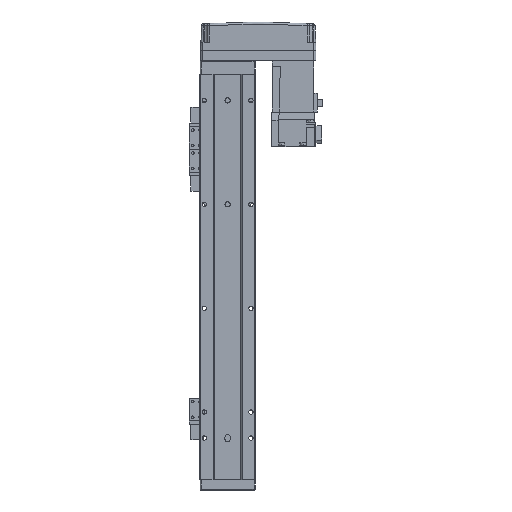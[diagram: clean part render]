
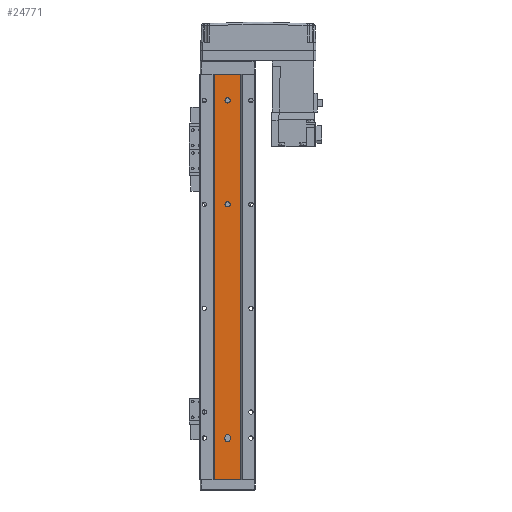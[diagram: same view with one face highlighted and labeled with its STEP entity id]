
A CAD part, front view. The second image highlights one B-rep face of the part: STEP entity #24771.
In plain terms, the highlighted planar face has unit normal (0, -1, 0).
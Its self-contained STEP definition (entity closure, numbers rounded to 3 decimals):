
#93 = CIRCLE ( 'NONE', #7317, 2.5 ) ;
#298 = ORIENTED_EDGE ( 'NONE', *, *, #24529, .F. ) ;
#1017 = CARTESIAN_POINT ( 'NONE',  ( 12.293, 1.5, 0. ) ) ;
#2043 = CARTESIAN_POINT ( 'NONE',  ( -12.293, 1.5, -390. ) ) ;
#3021 = EDGE_CURVE ( 'NONE', #18942, #34342, #25345, .T. ) ;
#3310 = EDGE_CURVE ( 'NONE', #30678, #3513, #25757, .T. ) ;
#3513 = VERTEX_POINT ( 'NONE', #35102 ) ;
#3616 = EDGE_LOOP ( 'NONE', ( #6352, #5404, #10941, #28826 ) ) ;
#3657 = AXIS2_PLACEMENT_3D ( 'NONE', #3936, #29823, #29332 ) ;
#3936 = CARTESIAN_POINT ( 'NONE',  ( 0., 1.5, -125. ) ) ;
#4661 = VERTEX_POINT ( 'NONE', #30310 ) ;
#5088 = VERTEX_POINT ( 'NONE', #17928 ) ;
#5352 = CARTESIAN_POINT ( 'NONE',  ( 12.293, 1.5, -390. ) ) ;
#5404 = ORIENTED_EDGE ( 'NONE', *, *, #3310, .F. ) ;
#5793 = DIRECTION ( 'NONE',  ( 1., 0., 0. ) ) ;
#5943 = VERTEX_POINT ( 'NONE', #30723 ) ;
#6166 = AXIS2_PLACEMENT_3D ( 'NONE', #25485, #31239, #5793 ) ;
#6352 = ORIENTED_EDGE ( 'NONE', *, *, #19448, .F. ) ;
#6417 = DIRECTION ( 'NONE',  ( 1., 0., 0. ) ) ;
#7121 = DIRECTION ( 'NONE',  ( 1., 0., 0. ) ) ;
#7317 = AXIS2_PLACEMENT_3D ( 'NONE', #34615, #12275, #6417 ) ;
#7646 = AXIS2_PLACEMENT_3D ( 'NONE', #20017, #17424, #17308 ) ;
#8012 = CARTESIAN_POINT ( 'NONE',  ( 2.5, 1.5, -25. ) ) ;
#8373 = ORIENTED_EDGE ( 'NONE', *, *, #3021, .F. ) ;
#8434 = CARTESIAN_POINT ( 'NONE',  ( 12.293, 1.5, -390. ) ) ;
#8997 = FACE_BOUND ( 'NONE', #13993, .T. ) ;
#9843 = EDGE_CURVE ( 'NONE', #5088, #29751, #22388, .T. ) ;
#10090 = LINE ( 'NONE', #1017, #18578 ) ;
#10736 = PLANE ( 'NONE',  #13218 ) ;
#10857 = ORIENTED_EDGE ( 'NONE', *, *, #17217, .T. ) ;
#10941 = ORIENTED_EDGE ( 'NONE', *, *, #21949, .F. ) ;
#11409 = ORIENTED_EDGE ( 'NONE', *, *, #35911, .T. ) ;
#11439 = CARTESIAN_POINT ( 'NONE',  ( -2.5, 1.5, -25. ) ) ;
#12275 = DIRECTION ( 'NONE',  ( 0., -1., 0. ) ) ;
#12551 = CARTESIAN_POINT ( 'NONE',  ( -2.5, 1.5, -349. ) ) ;
#12807 = VECTOR ( 'NONE', #22526, 1000. ) ;
#13218 = AXIS2_PLACEMENT_3D ( 'NONE', #5352, #27695, #33680 ) ;
#13729 = DIRECTION ( 'NONE',  ( 0., -1., 0. ) ) ;
#13993 = EDGE_LOOP ( 'NONE', ( #8373, #35473 ) ) ;
#15363 = CARTESIAN_POINT ( 'NONE',  ( 0., 1.5, -125. ) ) ;
#15707 = DIRECTION ( 'NONE',  ( 0., -1., 0. ) ) ;
#15746 = CIRCLE ( 'NONE', #6166, 2.5 ) ;
#16849 = DIRECTION ( 'NONE',  ( 0., 0., 1. ) ) ;
#16966 = VERTEX_POINT ( 'NONE', #26096 ) ;
#17217 = EDGE_CURVE ( 'NONE', #5943, #19969, #17772, .T. ) ;
#17308 = DIRECTION ( 'NONE',  ( 1., 0., 0. ) ) ;
#17424 = DIRECTION ( 'NONE',  ( 0., -1., 0. ) ) ;
#17448 = VERTEX_POINT ( 'NONE', #31535 ) ;
#17623 = EDGE_LOOP ( 'NONE', ( #32653, #24138, #10857, #11409 ) ) ;
#17772 = LINE ( 'NONE', #35789, #28046 ) ;
#17826 = LINE ( 'NONE', #25591, #23632 ) ;
#17928 = CARTESIAN_POINT ( 'NONE',  ( -2.5, 1.5, -125. ) ) ;
#17948 = LINE ( 'NONE', #2043, #21030 ) ;
#18191 = EDGE_CURVE ( 'NONE', #16966, #27463, #10090, .T. ) ;
#18322 = DIRECTION ( 'NONE',  ( 1., 0., 0. ) ) ;
#18578 = VECTOR ( 'NONE', #35289, 1000. ) ;
#18777 = FACE_BOUND ( 'NONE', #19732, .T. ) ;
#18942 = VERTEX_POINT ( 'NONE', #8012 ) ;
#19037 = CARTESIAN_POINT ( 'NONE',  ( 12.293, 1.5, -390. ) ) ;
#19240 = FACE_OUTER_BOUND ( 'NONE', #17623, .T. ) ;
#19448 = EDGE_CURVE ( 'NONE', #3513, #17448, #34438, .T. ) ;
#19732 = EDGE_LOOP ( 'NONE', ( #298, #26578 ) ) ;
#19738 = CARTESIAN_POINT ( 'NONE',  ( -2.5, 1.5, -390. ) ) ;
#19969 = VERTEX_POINT ( 'NONE', #19037 ) ;
#20017 = CARTESIAN_POINT ( 'NONE',  ( 0., 1.5, -25. ) ) ;
#21030 = VECTOR ( 'NONE', #16849, 1000. ) ;
#21949 = EDGE_CURVE ( 'NONE', #4661, #30678, #15746, .T. ) ;
#22388 = CIRCLE ( 'NONE', #35238, 2.5 ) ;
#22413 = EDGE_CURVE ( 'NONE', #5943, #16966, #17948, .T. ) ;
#22526 = DIRECTION ( 'NONE',  ( 0., 0., -1. ) ) ;
#22614 = DIRECTION ( 'NONE',  ( 0., 0., 1. ) ) ;
#23632 = VECTOR ( 'NONE', #22614, 1000. ) ;
#24138 = ORIENTED_EDGE ( 'NONE', *, *, #22413, .F. ) ;
#24529 = EDGE_CURVE ( 'NONE', #29751, #5088, #24592, .T. ) ;
#24592 = CIRCLE ( 'NONE', #3657, 2.5 ) ;
#24771 = ADVANCED_FACE ( 'NONE', ( #28627, #18777, #8997, #19240 ), #10736, .T. ) ;
#25345 = CIRCLE ( 'NONE', #7646, 2.5 ) ;
#25398 = DIRECTION ( 'NONE',  ( 1., 0., 0. ) ) ;
#25485 = CARTESIAN_POINT ( 'NONE',  ( 0., 1.5, -349. ) ) ;
#25591 = CARTESIAN_POINT ( 'NONE',  ( 2.5, 1.5, -390. ) ) ;
#25757 = LINE ( 'NONE', #19738, #12807 ) ;
#26096 = CARTESIAN_POINT ( 'NONE',  ( -12.293, 1.5, 0. ) ) ;
#26578 = ORIENTED_EDGE ( 'NONE', *, *, #9843, .F. ) ;
#27210 = CARTESIAN_POINT ( 'NONE',  ( 2.5, 1.5, -125. ) ) ;
#27463 = VERTEX_POINT ( 'NONE', #30128 ) ;
#27695 = DIRECTION ( 'NONE',  ( 0., -1., 0. ) ) ;
#28046 = VECTOR ( 'NONE', #7121, 1000. ) ;
#28233 = VECTOR ( 'NONE', #28389, 1000. ) ;
#28302 = CARTESIAN_POINT ( 'NONE',  ( 0., 1.5, -351. ) ) ;
#28318 = EDGE_CURVE ( 'NONE', #17448, #4661, #17826, .T. ) ;
#28389 = DIRECTION ( 'NONE',  ( 0., 0., 1. ) ) ;
#28627 = FACE_BOUND ( 'NONE', #3616, .T. ) ;
#28826 = ORIENTED_EDGE ( 'NONE', *, *, #28318, .F. ) ;
#29332 = DIRECTION ( 'NONE',  ( 1., 0., 0. ) ) ;
#29751 = VERTEX_POINT ( 'NONE', #27210 ) ;
#29823 = DIRECTION ( 'NONE',  ( 0., -1., 0. ) ) ;
#30128 = CARTESIAN_POINT ( 'NONE',  ( 12.293, 1.5, 0. ) ) ;
#30310 = CARTESIAN_POINT ( 'NONE',  ( 2.5, 1.5, -349. ) ) ;
#30678 = VERTEX_POINT ( 'NONE', #12551 ) ;
#30723 = CARTESIAN_POINT ( 'NONE',  ( -12.293, 1.5, -390. ) ) ;
#30907 = AXIS2_PLACEMENT_3D ( 'NONE', #28302, #13729, #25398 ) ;
#31239 = DIRECTION ( 'NONE',  ( 0., -1., 0. ) ) ;
#31265 = EDGE_CURVE ( 'NONE', #34342, #18942, #93, .T. ) ;
#31535 = CARTESIAN_POINT ( 'NONE',  ( 2.5, 1.5, -351. ) ) ;
#32653 = ORIENTED_EDGE ( 'NONE', *, *, #18191, .F. ) ;
#33680 = DIRECTION ( 'NONE',  ( 1., 0., 0. ) ) ;
#34033 = LINE ( 'NONE', #8434, #28233 ) ;
#34342 = VERTEX_POINT ( 'NONE', #11439 ) ;
#34438 = CIRCLE ( 'NONE', #30907, 2.5 ) ;
#34615 = CARTESIAN_POINT ( 'NONE',  ( 0., 1.5, -25. ) ) ;
#35102 = CARTESIAN_POINT ( 'NONE',  ( -2.5, 1.5, -351. ) ) ;
#35238 = AXIS2_PLACEMENT_3D ( 'NONE', #15363, #15707, #18322 ) ;
#35289 = DIRECTION ( 'NONE',  ( 1., 0., 0. ) ) ;
#35473 = ORIENTED_EDGE ( 'NONE', *, *, #31265, .F. ) ;
#35789 = CARTESIAN_POINT ( 'NONE',  ( 12.293, 1.5, -390. ) ) ;
#35911 = EDGE_CURVE ( 'NONE', #19969, #27463, #34033, .T. ) ;
